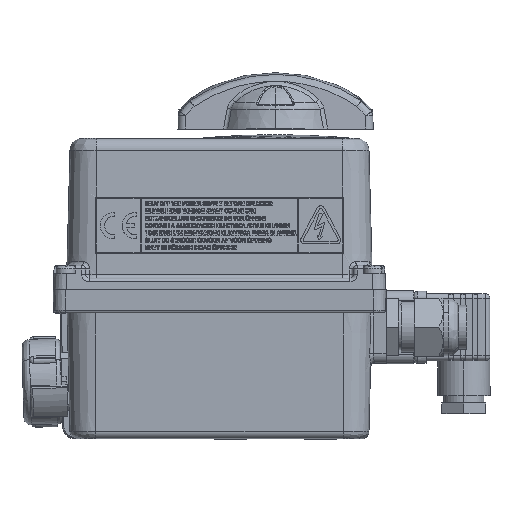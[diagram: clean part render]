
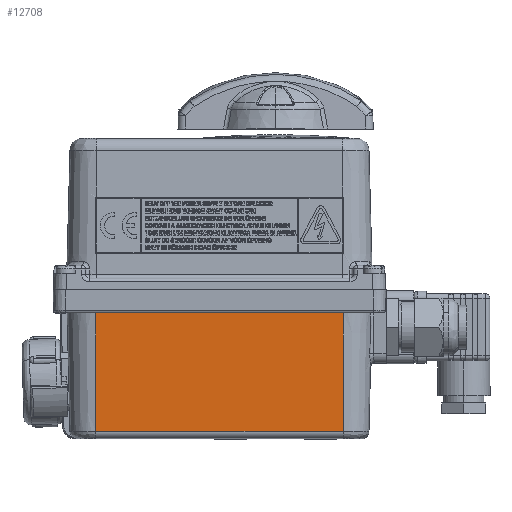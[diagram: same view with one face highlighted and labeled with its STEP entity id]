
A CAD part, top view. The second image highlights one B-rep face of the part: STEP entity #12708.
In plain terms, the highlighted planar face has unit normal (0, -0.024, 1).
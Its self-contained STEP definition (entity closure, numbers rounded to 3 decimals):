
#10278 = LINE ( 'NONE', #34611, #90116 ) ;
#10309 = LINE ( 'NONE', #42941, #83893 ) ;
#12708 = ADVANCED_FACE ( 'NONE', ( #91576 ), #70490, .T. ) ;
#13599 = DIRECTION ( 'NONE',  ( 0., -1., -0.024 ) ) ;
#13947 = VERTEX_POINT ( 'NONE', #46037 ) ;
#14825 = CARTESIAN_POINT ( 'NONE',  ( -47.349, -37.689, 28.349 ) ) ;
#23384 = ORIENTED_EDGE ( 'NONE', *, *, #122392, .T. ) ;
#28127 = ORIENTED_EDGE ( 'NONE', *, *, #47986, .T. ) ;
#34611 = CARTESIAN_POINT ( 'NONE',  ( 3.326, -37.689, 28.349 ) ) ;
#37059 = EDGE_CURVE ( 'NONE', #13947, #89807, #10309, .T. ) ;
#42941 = CARTESIAN_POINT ( 'NONE',  ( 3.326, 10.884, 29.536 ) ) ;
#46037 = CARTESIAN_POINT ( 'NONE',  ( -47.349, 10.884, 29.536 ) ) ;
#47921 = DIRECTION ( 'NONE',  ( 0., 1., 0.024 ) ) ;
#47986 = EDGE_CURVE ( 'NONE', #102504, #82413, #10278, .T. ) ;
#52981 = DIRECTION ( 'NONE',  ( 1., 0., 0. ) ) ;
#59060 = EDGE_LOOP ( 'NONE', ( #23384, #62506, #65631, #28127 ) ) ;
#62506 = ORIENTED_EDGE ( 'NONE', *, *, #37059, .F. ) ;
#63422 = CARTESIAN_POINT ( 'NONE',  ( -47.349, -13.403, 28.943 ) ) ;
#64626 = LINE ( 'NONE', #63422, #91218 ) ;
#65631 = ORIENTED_EDGE ( 'NONE', *, *, #70513, .T. ) ;
#70052 = DIRECTION ( 'NONE',  ( 0., -1., -0.024 ) ) ;
#70195 = DIRECTION ( 'NONE',  ( 0., -0.024, 1. ) ) ;
#70470 = CARTESIAN_POINT ( 'NONE',  ( -47.349, 10.884, 29.536 ) ) ;
#70490 = PLANE ( 'NONE',  #74744 ) ;
#70513 = EDGE_CURVE ( 'NONE', #13947, #102504, #64626, .T. ) ;
#74744 = AXIS2_PLACEMENT_3D ( 'NONE', #70470, #70195, #70052 ) ;
#79588 = CARTESIAN_POINT ( 'NONE',  ( 54.001, 10.884, 29.536 ) ) ;
#82413 = VERTEX_POINT ( 'NONE', #94870 ) ;
#83893 = VECTOR ( 'NONE', #52981, 1000. ) ;
#89807 = VERTEX_POINT ( 'NONE', #79588 ) ;
#90116 = VECTOR ( 'NONE', #114536, 1000. ) ;
#91218 = VECTOR ( 'NONE', #13599, 1000. ) ;
#91576 = FACE_OUTER_BOUND ( 'NONE', #59060, .T. ) ;
#94870 = CARTESIAN_POINT ( 'NONE',  ( 54.001, -37.689, 28.349 ) ) ;
#97719 = CARTESIAN_POINT ( 'NONE',  ( 54.001, -13.403, 28.943 ) ) ;
#102504 = VERTEX_POINT ( 'NONE', #14825 ) ;
#110403 = VECTOR ( 'NONE', #47921, 1000. ) ;
#113526 = LINE ( 'NONE', #97719, #110403 ) ;
#114536 = DIRECTION ( 'NONE',  ( 1., 0., 0. ) ) ;
#122392 = EDGE_CURVE ( 'NONE', #82413, #89807, #113526, .T. ) ;
